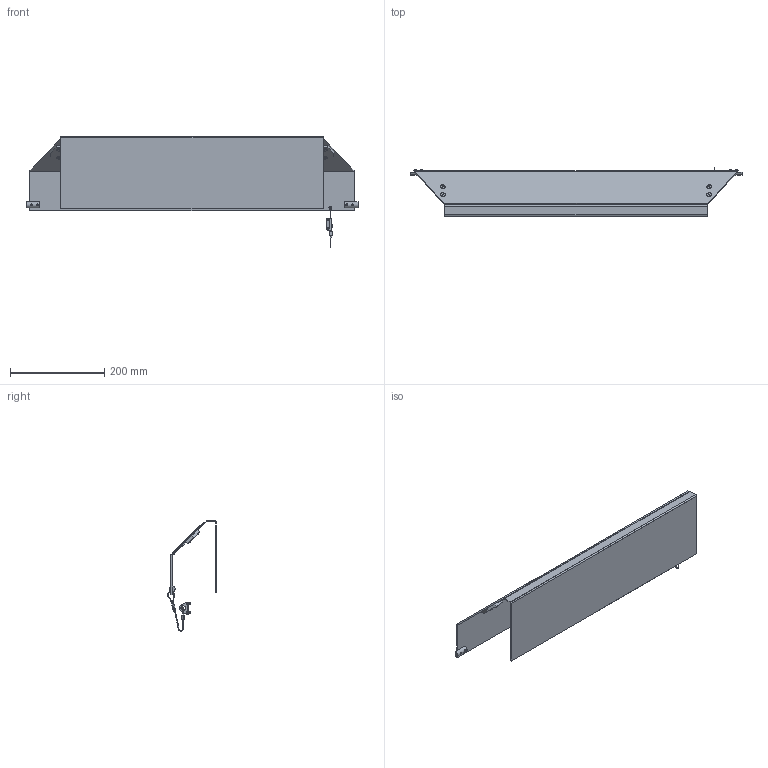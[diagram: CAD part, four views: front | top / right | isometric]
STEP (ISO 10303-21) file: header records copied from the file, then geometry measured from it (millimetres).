
FILE_DESCRIPTION((''),'2;1');
FILE_NAME('300994M_ASM','2016-12-05T',('jenni.wallner'),(''),'PRO/ENGINEER BY PARAMETRIC TECHNOLOGY CORPORATION, 2012420','PRO/ENGINEER BY PARAMETRIC TECHNOLOGY CORPORATION, 2012420','');
FILE_SCHEMA(('CONFIG_CONTROL_DESIGN'));
Length unit declared in the file: inch
Products named in the file (11): 300844M; 300834M; 300774M; 300741M; 910408M; 930510M; 807-1086; 804-506; 807-1085; 920306M; 300994M_ASM
Assembly tree (20 placements, depth 2):
  300994M_ASM
    300844M
    300834M
    300774M  x2
    300741M  x2
    910408M  x4
    930510M  x4
    807-1086
    804-506
    807-1085  x2
    920306M  x2
Bounding box: 704.55 x 103.44 x 234.74 mm (x, y, z)
Volume: 518712.8 mm3; surface area: 563163.8 mm2
Topology: 20 solids, 28 shells, 400 faces, 944 edges, 596 vertices
Faces by surface type: plane 179, cylinder 141, cone 56, torus 14, bspline 10
Entity records: 7320 total; most frequent: CARTESIAN_POINT 1446, DIRECTION 1278, ORIENTED_EDGE 1080, EDGE_CURVE 548, AXIS2_PLACEMENT_3D 490, VERTEX_POINT 342, VECTOR 298, LINE 298
